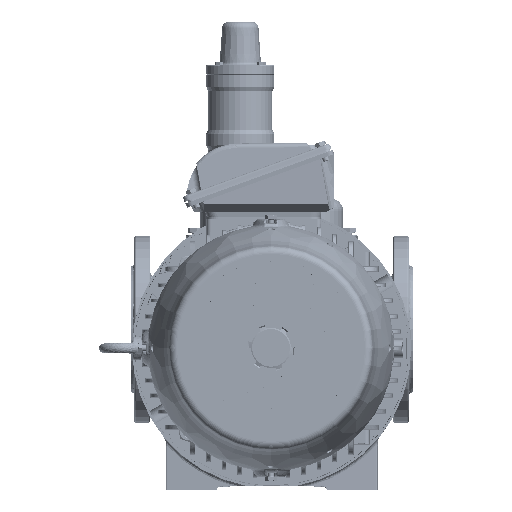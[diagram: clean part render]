
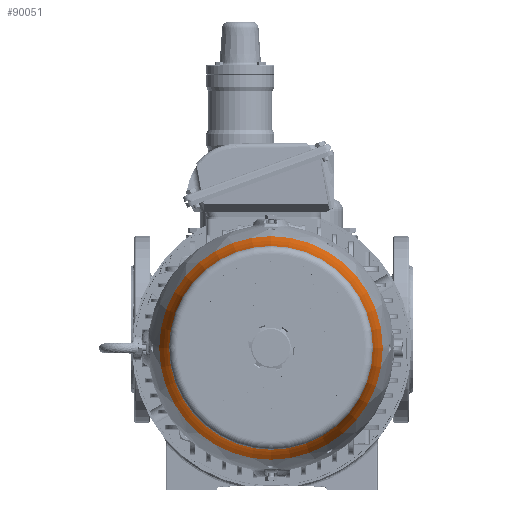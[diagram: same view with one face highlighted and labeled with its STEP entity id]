
A CAD part, top view. The second image highlights one B-rep face of the part: STEP entity #90051.
In plain terms, the highlighted toroidal (fillet/blend) face has major radius 308.616 mm and minor radius 180 mm.
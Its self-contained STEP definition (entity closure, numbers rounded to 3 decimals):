
#106=TOROIDAL_SURFACE('',#97783,308.617,180.);
#18587=FACE_OUTER_BOUND('',#23982,.T.);
#23982=EDGE_LOOP('',(#71581,#71582,#71583,#71584,#71585,#71586));
#31741=CIRCLE('',#97780,129.927);
#31742=CIRCLE('',#97781,129.927);
#31744=CIRCLE('',#97784,142.487);
#31745=CIRCLE('',#97785,142.487);
#31746=CIRCLE('',#97786,180.);
#39908=VERTEX_POINT('',#168901);
#39909=VERTEX_POINT('',#168902);
#39910=VERTEX_POINT('',#168907);
#39911=VERTEX_POINT('',#168908);
#51081=EDGE_CURVE('',#39908,#39909,#31741,.T.);
#51082=EDGE_CURVE('',#39909,#39908,#31742,.T.);
#51084=EDGE_CURVE('',#39910,#39911,#31744,.T.);
#51085=EDGE_CURVE('',#39911,#39910,#31745,.T.);
#51086=EDGE_CURVE('',#39911,#39909,#31746,.T.);
#71581=ORIENTED_EDGE('',*,*,#51084,.F.);
#71582=ORIENTED_EDGE('',*,*,#51085,.F.);
#71583=ORIENTED_EDGE('',*,*,#51086,.T.);
#71584=ORIENTED_EDGE('',*,*,#51082,.T.);
#71585=ORIENTED_EDGE('',*,*,#51081,.T.);
#71586=ORIENTED_EDGE('',*,*,#51086,.F.);
#90051=ADVANCED_FACE('',(#18587),#106,.F.);
#97780=AXIS2_PLACEMENT_3D('',#168903,#115355,#115356);
#97781=AXIS2_PLACEMENT_3D('',#168904,#115357,#115358);
#97783=AXIS2_PLACEMENT_3D('',#168906,#115361,#115362);
#97784=AXIS2_PLACEMENT_3D('',#168909,#115363,#115364);
#97785=AXIS2_PLACEMENT_3D('',#168910,#115365,#115366);
#97786=AXIS2_PLACEMENT_3D('',#168911,#115367,#115368);
#115355=DIRECTION('center_axis',(0.,0.,
-1.));
#115356=DIRECTION('ref_axis',(-1.,0.,0.));
#115357=DIRECTION('center_axis',(0.,0.,
-1.));
#115358=DIRECTION('ref_axis',(-1.,0.,0.));
#115361=DIRECTION('center_axis',(0.,0.,
-1.));
#115362=DIRECTION('ref_axis',(-1.,0.,0.));
#115363=DIRECTION('center_axis',(0.,0.,
-1.));
#115364=DIRECTION('ref_axis',(-1.,0.,0.));
#115365=DIRECTION('center_axis',(0.,0.,
-1.));
#115366=DIRECTION('ref_axis',(-1.,0.,0.));
#115367=DIRECTION('center_axis',(0.,1.,0.));
#115368=DIRECTION('ref_axis',(1.,0.,0.));
#168901=CARTESIAN_POINT('',(-130.791,0.,601.005));
#168902=CARTESIAN_POINT('',(129.064,0.,601.005));
#168903=CARTESIAN_POINT('Origin',(-0.863,0.,
601.005));
#168904=CARTESIAN_POINT('Origin',(-0.863,0.,
601.005));
#168906=CARTESIAN_POINT('Origin',(-0.863,0.,
622.687));
#168907=CARTESIAN_POINT('',(-143.35,0.,553.399));
#168908=CARTESIAN_POINT('',(141.623,0.,553.399));
#168909=CARTESIAN_POINT('Origin',(-0.863,0.,
553.399));
#168910=CARTESIAN_POINT('Origin',(-0.863,0.,
553.399));
#168911=CARTESIAN_POINT('Origin',(307.753,0.,
622.687));
